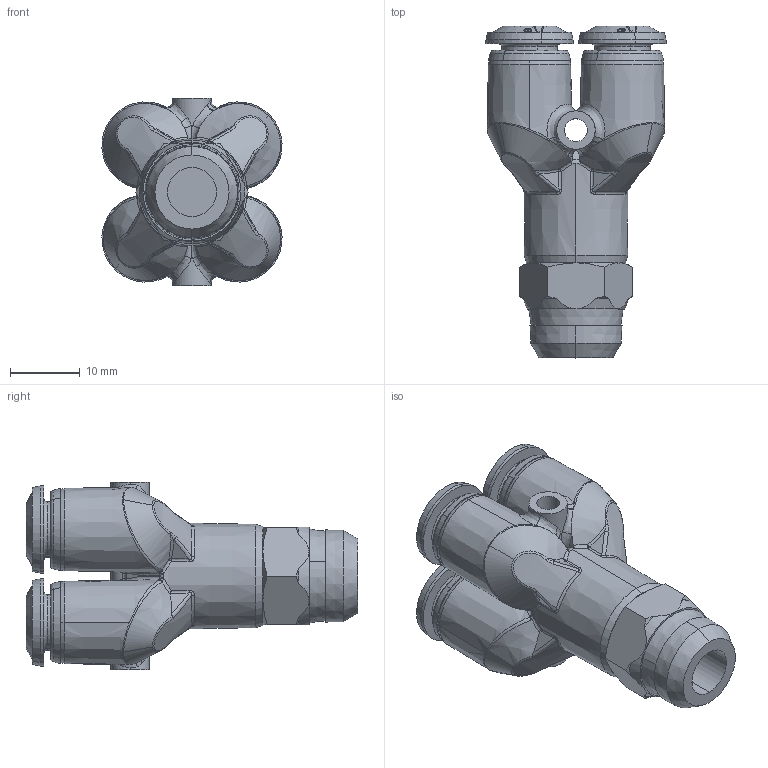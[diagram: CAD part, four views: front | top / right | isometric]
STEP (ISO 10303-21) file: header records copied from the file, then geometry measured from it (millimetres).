
FILE_DESCRIPTION (( 'STEP AP214' ), '1' );
FILE_NAME ('8534000004A.STEP', '2019-10-11T08:00:37', ( 'admin' ), ( '' ), 'SwSTEP 2.0', 'SolidWorks 2016', '' );
FILE_SCHEMA (( 'AUTOMOTIVE_DESIGN' ));
Length unit declared in the file: millimetre
Products named in the file (1): 8534000004A
Bounding box: 25.78 x 47.5 x 26.8 mm (x, y, z)
Volume: 10357.6 mm3; surface area: 7214.5 mm2
Topology: 1 solids, 1 shells, 470 faces, 1123 edges, 686 vertices
Faces by surface type: bspline 236, cone 111, plane 48, cylinder 35, torus 29, sphere 11
Entity records: 25957 total; most frequent: CARTESIAN_POINT 16764, ORIENTED_EDGE 2230, DIRECTION 1357, EDGE_CURVE 1115, VERTEX_POINT 686, AXIS2_PLACEMENT_3D 561, B_SPLINE_CURVE_WITH_KNOTS 554, EDGE_LOOP 511
